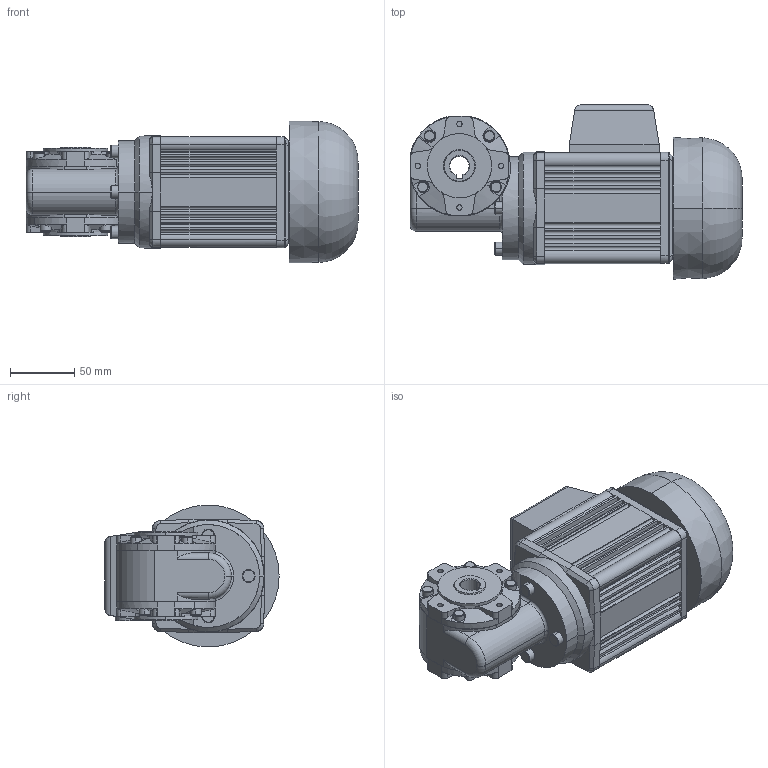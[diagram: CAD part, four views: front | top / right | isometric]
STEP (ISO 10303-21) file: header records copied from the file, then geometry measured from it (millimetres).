
FILE_DESCRIPTION(('OneSpaceDesigner STEP Export'),'2;1');
FILE_NAME('OEG51_GB130_F.stp','2008-06-19T 7:05:04',(''),(''),'OneSpace Designer STEP processor (Jan. 2003) for AP214(CD)(Solid Model)','OneSpace Designer 12.01D 09-Jul-2004 (C) CoCreate Software GmbH','');
FILE_SCHEMA(('AUTOMOTIVE_DESIGN_CC2 {1 2 10303 214 -1 1 5 1}'));
Length unit declared in the file: millimetre
Products named in the file (2): OEG51_GB130_F
Assembly tree (1 placements, depth 2):
  OEG51_GB130_F
    OEG51_GB130_F
Bounding box: 258.5 x 135.73 x 110.5 mm (x, y, z)
Volume: 1813139.8 mm3; surface area: 144861.7 mm2
Topology: 1 solids, 1 shells, 571 faces, 1502 edges, 946 vertices
Faces by surface type: plane 273, cylinder 210, cone 58, bspline 24, torus 6
Entity records: 25029 total; most frequent: CARTESIAN_POINT 12228, ORIENTED_EDGE 3004, DIRECTION 2179, EDGE_CURVE 1502, VERTEX_POINT 946, VECTOR 789, LINE 789, AXIS2_PLACEMENT_3D 695
